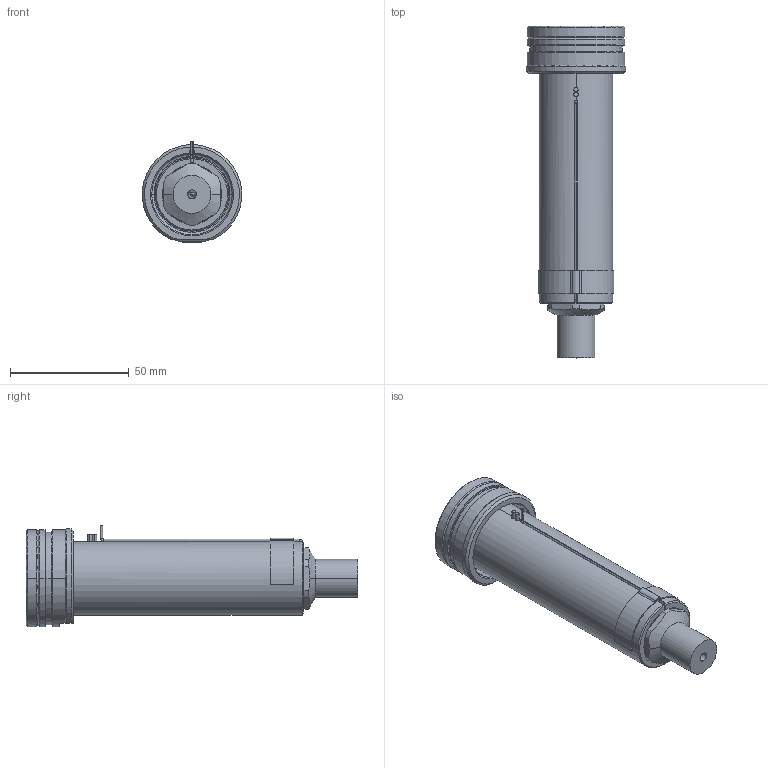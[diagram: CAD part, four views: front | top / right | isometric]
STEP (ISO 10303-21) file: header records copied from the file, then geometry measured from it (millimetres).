
FILE_DESCRIPTION((''),'2;1');
FILE_NAME('EO12_PG-FBE_STD_110_SW','2024-02-19T12:02:24',('sundharh'),(''),'CREO PARAMETRIC BY PTC INC, 2023154','CREO PARAMETRIC BY PTC INC, 2023154','');
FILE_SCHEMA(('CONFIG_CONTROL_DESIGN'));
Length unit declared in the file: millimetre
Products named in the file (1): EO12_PG-FBE_STD_110_SW
Bounding box: 41.85 x 140 x 43 mm (x, y, z)
Volume: 89858.2 mm3; surface area: 26358 mm2
Topology: 2 solids, 3 shells, 220 faces, 587 edges, 361 vertices
Faces by surface type: cylinder 82, plane 60, cone 45, torus 27, sphere 3, bspline 3
Entity records: 7947 total; most frequent: CARTESIAN_POINT 2334, DIRECTION 1237, ORIENTED_EDGE 1166, EDGE_CURVE 583, AXIS2_PLACEMENT_3D 520, VERTEX_POINT 361, CIRCLE 303, EDGE_LOOP 238
